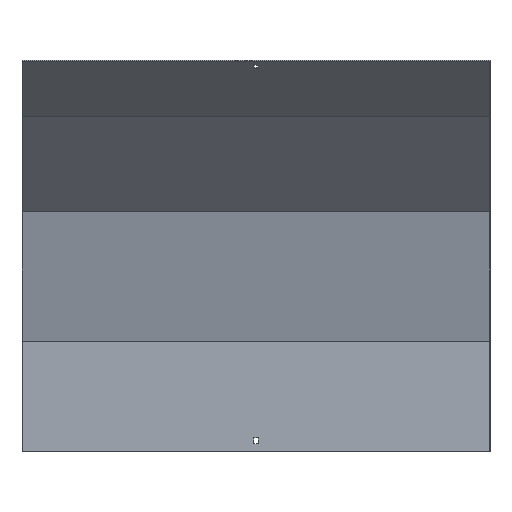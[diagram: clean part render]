
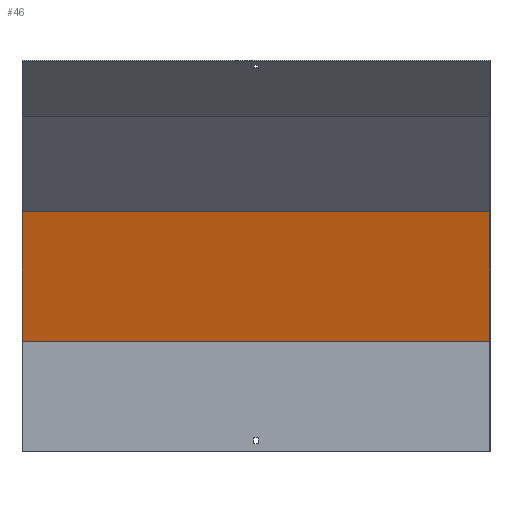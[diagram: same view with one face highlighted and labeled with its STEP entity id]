
A CAD part, front view. The second image highlights one B-rep face of the part: STEP entity #46.
In plain terms, the highlighted planar face has unit normal (0, -0.966, -0.259).
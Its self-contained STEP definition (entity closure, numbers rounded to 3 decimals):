
#7 = AXIS2_PLACEMENT_3D ( 'NONE', #662, #586, #899 ) ;
#46 = ADVANCED_FACE ( 'NONE', ( #885 ), #360, .T. ) ;
#74 = VERTEX_POINT ( 'NONE', #523 ) ;
#126 = LINE ( 'NONE', #906, #396 ) ;
#127 = CARTESIAN_POINT ( 'NONE',  ( -350., 58.62, 15.707 ) ) ;
#174 = ORIENTED_EDGE ( 'NONE', *, *, #408, .T. ) ;
#179 = CARTESIAN_POINT ( 'NONE',  ( 350., -33.883, 360.932 ) ) ;
#258 = VERTEX_POINT ( 'NONE', #903 ) ;
#264 = LINE ( 'NONE', #952, #727 ) ;
#271 = VERTEX_POINT ( 'NONE', #179 ) ;
#292 = ORIENTED_EDGE ( 'NONE', *, *, #788, .T. ) ;
#297 = DIRECTION ( 'NONE',  ( 0., -0.259, 0.966 ) ) ;
#360 = PLANE ( 'NONE',  #7 ) ;
#396 = VECTOR ( 'NONE', #513, 1000. ) ;
#399 = EDGE_CURVE ( 'NONE', #74, #451, #264, .T. ) ;
#408 = EDGE_CURVE ( 'NONE', #74, #271, #860, .T. ) ;
#411 = DIRECTION ( 'NONE',  ( -1., 0., 0. ) ) ;
#451 = VERTEX_POINT ( 'NONE', #812 ) ;
#456 = LINE ( 'NONE', #127, #875 ) ;
#506 = ORIENTED_EDGE ( 'NONE', *, *, #508, .F. ) ;
#508 = EDGE_CURVE ( 'NONE', #451, #258, #456, .T. ) ;
#513 = DIRECTION ( 'NONE',  ( -1., 0., 0. ) ) ;
#523 = CARTESIAN_POINT ( 'NONE',  ( 350., 18.5, 165.436 ) ) ;
#586 = DIRECTION ( 'NONE',  ( 0., -0.966, -0.259 ) ) ;
#662 = CARTESIAN_POINT ( 'NONE',  ( 351.5, 17.87, 167.788 ) ) ;
#727 = VECTOR ( 'NONE', #411, 1000. ) ;
#744 = DIRECTION ( 'NONE',  ( 0., -0.259, 0.966 ) ) ;
#788 = EDGE_CURVE ( 'NONE', #271, #258, #126, .T. ) ;
#790 = CARTESIAN_POINT ( 'NONE',  ( 350., 58.62, 15.707 ) ) ;
#805 = VECTOR ( 'NONE', #297, 1000. ) ;
#812 = CARTESIAN_POINT ( 'NONE',  ( -350., 18.5, 165.436 ) ) ;
#828 = EDGE_LOOP ( 'NONE', ( #506, #964, #174, #292 ) ) ;
#860 = LINE ( 'NONE', #790, #805 ) ;
#875 = VECTOR ( 'NONE', #744, 1000. ) ;
#885 = FACE_OUTER_BOUND ( 'NONE', #828, .T. ) ;
#899 = DIRECTION ( 'NONE',  ( 0., 0.259, -0.966 ) ) ;
#903 = CARTESIAN_POINT ( 'NONE',  ( -350., -33.883, 360.932 ) ) ;
#906 = CARTESIAN_POINT ( 'NONE',  ( 351.5, -33.883, 360.932 ) ) ;
#952 = CARTESIAN_POINT ( 'NONE',  ( 351.5, 18.5, 165.436 ) ) ;
#964 = ORIENTED_EDGE ( 'NONE', *, *, #399, .F. ) ;
